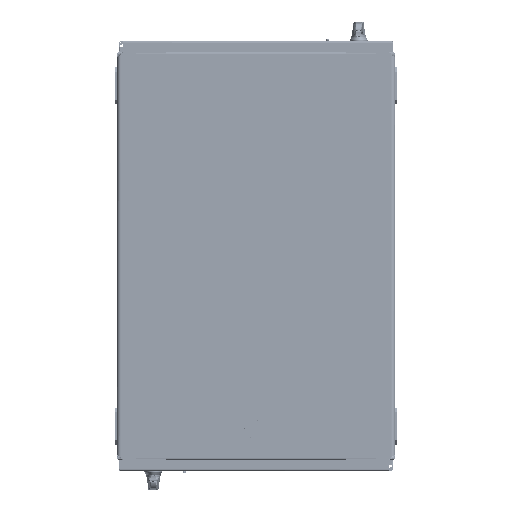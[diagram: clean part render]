
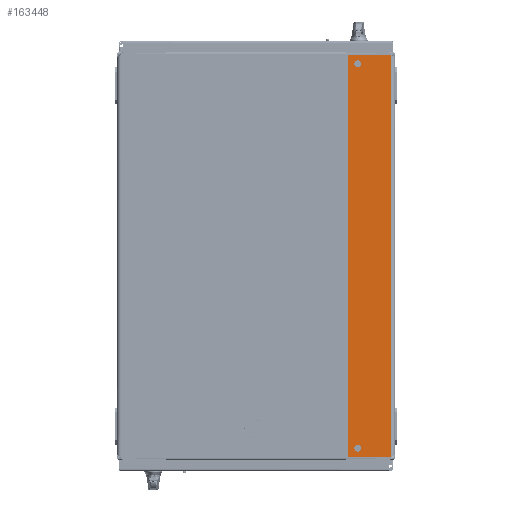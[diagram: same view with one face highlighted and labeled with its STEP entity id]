
A CAD part, front view. The second image highlights one B-rep face of the part: STEP entity #163448.
In plain terms, the highlighted planar face has unit normal (0, -1, 0).
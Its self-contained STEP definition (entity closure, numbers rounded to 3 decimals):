
#7179 = EDGE_LOOP ( 'NONE', ( #236664, #236666 ) ) ;
#7253 = EDGE_LOOP ( 'NONE', ( #236672, #236674, #236676, #236678 ) ) ;
#7356 = EDGE_LOOP ( 'NONE', ( #236668, #236670 ) ) ;
#42915 = VERTEX_POINT ( 'NONE', #82281 ) ;
#42919 = VERTEX_POINT ( 'NONE', #82286 ) ;
#42924 = VERTEX_POINT ( 'NONE', #82292 ) ;
#42925 = VERTEX_POINT ( 'NONE', #82293 ) ;
#42973 = VERTEX_POINT ( 'NONE', #82370 ) ;
#42975 = VERTEX_POINT ( 'NONE', #82373 ) ;
#42981 = VERTEX_POINT ( 'NONE', #82382 ) ;
#42982 = VERTEX_POINT ( 'NONE', #82384 ) ;
#82281 = CARTESIAN_POINT ( 'NONE',  ( 4.875, -2.75, 21.68 ) ) ;
#82286 = CARTESIAN_POINT ( 'NONE',  ( 4.875, -2.75, -21.68 ) ) ;
#82292 = CARTESIAN_POINT ( 'NONE',  ( 0.22, -2.75, 21.68 ) ) ;
#82293 = CARTESIAN_POINT ( 'NONE',  ( 0.22, -2.75, -21.68 ) ) ;
#82370 = CARTESIAN_POINT ( 'NONE',  ( 3.812, -2.75, 20.375 ) ) ;
#82373 = CARTESIAN_POINT ( 'NONE',  ( 3.812, -2.75, 21.125 ) ) ;
#82382 = CARTESIAN_POINT ( 'NONE',  ( 3.812, -2.75, -21.125 ) ) ;
#82384 = CARTESIAN_POINT ( 'NONE',  ( 3.812, -2.75, -20.375 ) ) ;
#163448 = ADVANCED_FACE ( 'NONE', ( #344178, #344166, #344186 ), #343193, .F. ) ;
#236664 = ORIENTED_EDGE ( 'NONE', *, *, #253724, .F. ) ;
#236666 = ORIENTED_EDGE ( 'NONE', *, *, #253223, .F. ) ;
#236668 = ORIENTED_EDGE ( 'NONE', *, *, #253728, .F. ) ;
#236670 = ORIENTED_EDGE ( 'NONE', *, *, #253244, .F. ) ;
#236672 = ORIENTED_EDGE ( 'NONE', *, *, #253675, .T. ) ;
#236674 = ORIENTED_EDGE ( 'NONE', *, *, #253719, .T. ) ;
#236676 = ORIENTED_EDGE ( 'NONE', *, *, #253686, .F. ) ;
#236678 = ORIENTED_EDGE ( 'NONE', *, *, #253708, .F. ) ;
#253223 = EDGE_CURVE ( 'NONE', #42982, #42981, #287059, .T. ) ;
#253244 = EDGE_CURVE ( 'NONE', #42975, #42973, #287082, .T. ) ;
#253675 = EDGE_CURVE ( 'NONE', #42924, #42925, #318373, .T. ) ;
#253686 = EDGE_CURVE ( 'NONE', #42915, #42919, #318355, .T. ) ;
#253708 = EDGE_CURVE ( 'NONE', #42924, #42915, #318406, .T. ) ;
#253719 = EDGE_CURVE ( 'NONE', #42925, #42919, #318390, .T. ) ;
#253724 = EDGE_CURVE ( 'NONE', #42981, #42982, #318487, .T. ) ;
#253728 = EDGE_CURVE ( 'NONE', #42973, #42975, #318497, .T. ) ;
#258562 = AXIS2_PLACEMENT_3D ( 'NONE', #310918, #310928, #310932 ) ;
#258572 = AXIS2_PLACEMENT_3D ( 'NONE', #310978, #310985, #310990 ) ;
#258673 = AXIS2_PLACEMENT_3D ( 'NONE', #313292, #313348, #313353 ) ;
#258685 = AXIS2_PLACEMENT_3D ( 'NONE', #313273, #313329, #313333 ) ;
#275262 = AXIS2_PLACEMENT_3D ( 'NONE', #343178, #343196, #343199 ) ;
#287059 = CIRCLE ( 'NONE', #258562, 0.375 ) ;
#287082 = CIRCLE ( 'NONE', #258572, 0.375 ) ;
#310918 = CARTESIAN_POINT ( 'NONE',  ( 3.812, -2.75, -20.75 ) ) ;
#310928 = DIRECTION ( 'NONE',  ( 0., -1., 0. ) ) ;
#310932 = DIRECTION ( 'NONE',  ( 0., 0., -1. ) ) ;
#310978 = CARTESIAN_POINT ( 'NONE',  ( 3.812, -2.75, 20.75 ) ) ;
#310985 = DIRECTION ( 'NONE',  ( 0., -1., 0. ) ) ;
#310990 = DIRECTION ( 'NONE',  ( 0., 0., -1. ) ) ;
#313161 = CARTESIAN_POINT ( 'NONE',  ( 0.22, -2.75, 21.687 ) ) ;
#313165 = DIRECTION ( 'NONE',  ( 0., 0., -1. ) ) ;
#313185 = CARTESIAN_POINT ( 'NONE',  ( 4.875, -2.75, 21.687 ) ) ;
#313208 = DIRECTION ( 'NONE',  ( 0., 0., -1. ) ) ;
#313273 = CARTESIAN_POINT ( 'NONE',  ( 3.812, -2.75, -20.75 ) ) ;
#313278 = CARTESIAN_POINT ( 'NONE',  ( -43.403, -2.75, 21.68 ) ) ;
#313284 = DIRECTION ( 'NONE',  ( 1., 0., 0. ) ) ;
#313292 = CARTESIAN_POINT ( 'NONE',  ( 3.812, -2.75, 20.75 ) ) ;
#313310 = CARTESIAN_POINT ( 'NONE',  ( -43.397, -2.75, -21.68 ) ) ;
#313316 = DIRECTION ( 'NONE',  ( 1., 0., 0. ) ) ;
#313329 = DIRECTION ( 'NONE',  ( 0., -1., 0. ) ) ;
#313333 = DIRECTION ( 'NONE',  ( 0., 0., -1. ) ) ;
#313348 = DIRECTION ( 'NONE',  ( 0., -1., 0. ) ) ;
#313353 = DIRECTION ( 'NONE',  ( 0., 0., -1. ) ) ;
#318355 = LINE ( 'NONE', #313185, #318401 ) ;
#318373 = LINE ( 'NONE', #313161, #318379 ) ;
#318379 = VECTOR ( 'NONE', #313165, 39.37 ) ;
#318390 = LINE ( 'NONE', #313310, #318435 ) ;
#318401 = VECTOR ( 'NONE', #313208, 39.37 ) ;
#318406 = LINE ( 'NONE', #313278, #318439 ) ;
#318435 = VECTOR ( 'NONE', #313316, 39.37 ) ;
#318439 = VECTOR ( 'NONE', #313284, 39.37 ) ;
#318487 = CIRCLE ( 'NONE', #258685, 0.375 ) ;
#318497 = CIRCLE ( 'NONE', #258673, 0.375 ) ;
#343178 = CARTESIAN_POINT ( 'NONE',  ( 0., -2.75, 21.687 ) ) ;
#343193 = PLANE ( 'NONE',  #275262 ) ;
#343196 = DIRECTION ( 'NONE',  ( 0., 1., 0. ) ) ;
#343199 = DIRECTION ( 'NONE',  ( 0., 0., 1. ) ) ;
#344166 = FACE_BOUND ( 'NONE', #7356, .T. ) ;
#344178 = FACE_BOUND ( 'NONE', #7179, .T. ) ;
#344186 = FACE_OUTER_BOUND ( 'NONE', #7253, .T. ) ;
